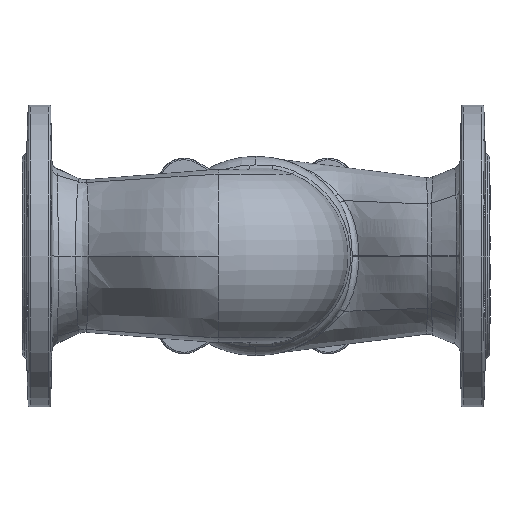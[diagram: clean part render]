
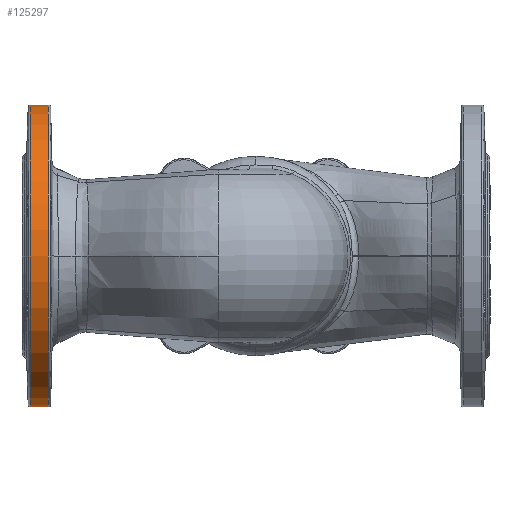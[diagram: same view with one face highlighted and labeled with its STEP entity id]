
A CAD part, front view. The second image highlights one B-rep face of the part: STEP entity #125297.
In plain terms, the highlighted cylindrical face has radius 100 mm (diameter 200 mm), a partial arc.
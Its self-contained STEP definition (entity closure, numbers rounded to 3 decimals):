
#3641 = VERTEX_POINT ( 'NONE', #89397 ) ;
#4681 = EDGE_CURVE ( 'NONE', #105710, #3641, #91228, .T. ) ;
#7188 = DIRECTION ( 'NONE',  ( 0., 0., -1. ) ) ;
#7828 = AXIS2_PLACEMENT_3D ( 'NONE', #37264, #81518, #35833 ) ;
#17263 = LINE ( 'NONE', #117428, #106076 ) ;
#25510 = EDGE_CURVE ( 'NONE', #89273, #3641, #139798, .T. ) ;
#29425 = DIRECTION ( 'NONE',  ( 0., 0., -1. ) ) ;
#30311 = DIRECTION ( 'NONE',  ( 1., 0., 0. ) ) ;
#34616 = ORIENTED_EDGE ( 'NONE', *, *, #4681, .F. ) ;
#35833 = DIRECTION ( 'NONE',  ( 0., 0., -1. ) ) ;
#36940 = CYLINDRICAL_SURFACE ( 'NONE', #115330, 100. ) ;
#37264 = CARTESIAN_POINT ( 'NONE',  ( 17.526, 0., 0. ) ) ;
#38170 = CARTESIAN_POINT ( 'NONE',  ( 17.526, 0., 100. ) ) ;
#40331 = CARTESIAN_POINT ( 'NONE',  ( 0., 0., -100. ) ) ;
#46427 = AXIS2_PLACEMENT_3D ( 'NONE', #109489, #131993, #7188 ) ;
#47035 = ORIENTED_EDGE ( 'NONE', *, *, #25510, .T. ) ;
#49231 = ORIENTED_EDGE ( 'NONE', *, *, #133372, .F. ) ;
#53369 = CIRCLE ( 'NONE', #46427, 100. ) ;
#61694 = VECTOR ( 'NONE', #128887, 1000. ) ;
#78408 = ORIENTED_EDGE ( 'NONE', *, *, #115443, .T. ) ;
#81518 = DIRECTION ( 'NONE',  ( 1., 0., 0. ) ) ;
#85292 = DIRECTION ( 'NONE',  ( 1., 0., 0. ) ) ;
#89273 = VERTEX_POINT ( 'NONE', #91371 ) ;
#89397 = CARTESIAN_POINT ( 'NONE',  ( 17.526, 0., -100. ) ) ;
#91228 = CIRCLE ( 'NONE', #7828, 100. ) ;
#91371 = CARTESIAN_POINT ( 'NONE',  ( 5.575, 0., -100. ) ) ;
#93241 = VERTEX_POINT ( 'NONE', #113081 ) ;
#102977 = EDGE_LOOP ( 'NONE', ( #49231, #78408, #47035, #34616 ) ) ;
#105710 = VERTEX_POINT ( 'NONE', #38170 ) ;
#106076 = VECTOR ( 'NONE', #30311, 1000. ) ;
#107088 = FACE_OUTER_BOUND ( 'NONE', #102977, .T. ) ;
#109489 = CARTESIAN_POINT ( 'NONE',  ( 5.575, 0., 0. ) ) ;
#113081 = CARTESIAN_POINT ( 'NONE',  ( 5.575, 0., 100. ) ) ;
#115330 = AXIS2_PLACEMENT_3D ( 'NONE', #117271, #85292, #29425 ) ;
#115443 = EDGE_CURVE ( 'NONE', #93241, #89273, #53369, .T. ) ;
#117271 = CARTESIAN_POINT ( 'NONE',  ( 0., 0., 0. ) ) ;
#117428 = CARTESIAN_POINT ( 'NONE',  ( 0., 0., 100. ) ) ;
#125297 = ADVANCED_FACE ( 'NONE', ( #107088 ), #36940, .T. ) ;
#128887 = DIRECTION ( 'NONE',  ( 1., 0., 0. ) ) ;
#131993 = DIRECTION ( 'NONE',  ( 1., 0., 0. ) ) ;
#133372 = EDGE_CURVE ( 'NONE', #93241, #105710, #17263, .T. ) ;
#139798 = LINE ( 'NONE', #40331, #61694 ) ;
